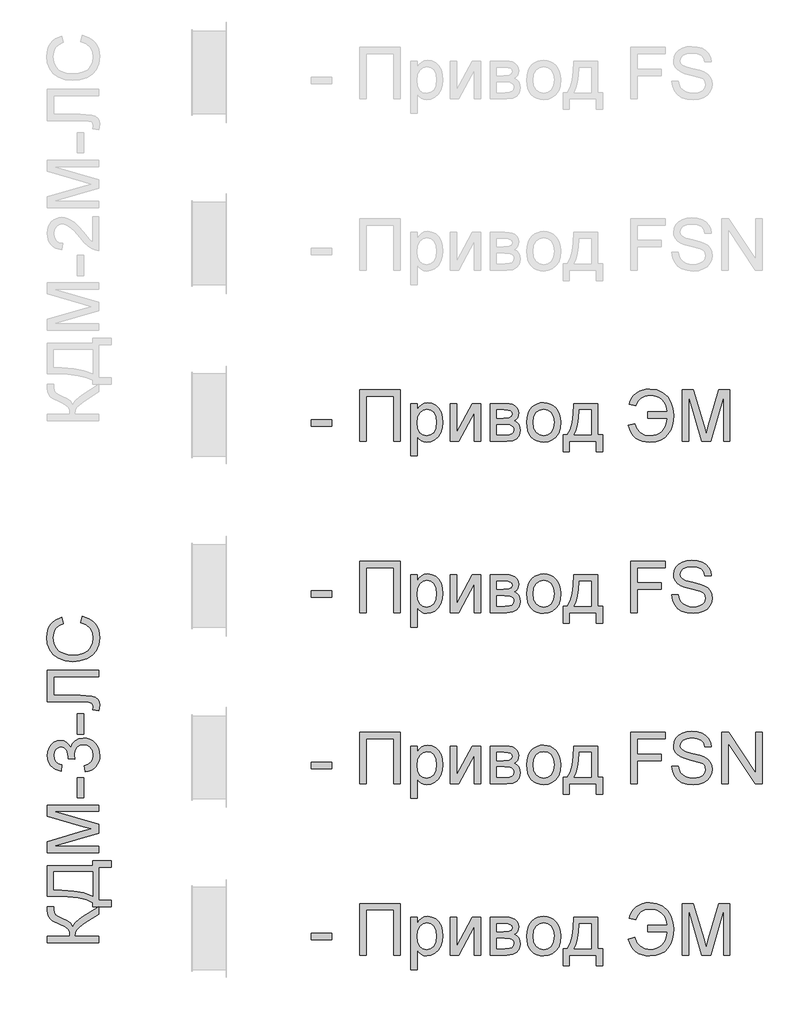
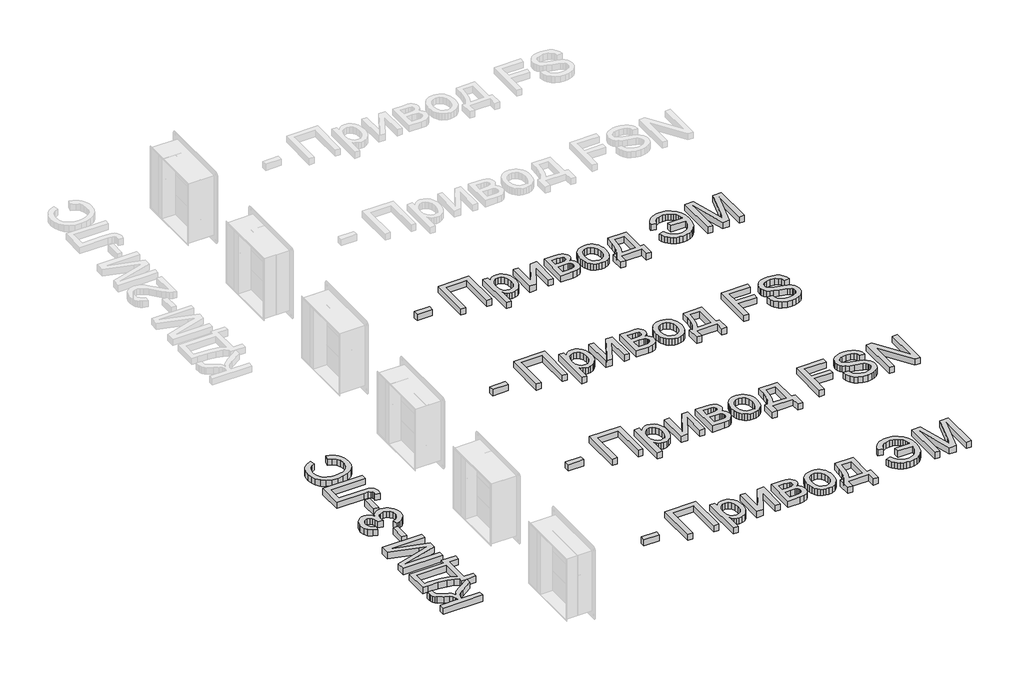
# One storey, part 5 of 23: 5 proxies.
"""IFC4 building model written with IfcOpenShell, lengths in millimetres."""

from ifc_helpers import new_model, si_unit, origin, origin_with_axes, place, context, project, spatial, polyline, outline, extrude, element, save

model = new_model("IFC4")

# Units and contexts
model_context = context("Model", 3, world=origin())
ifc_project = project(units=[si_unit("LENGTHUNIT", "METRE", prefix="MILLI")], contexts=[model_context])

# Site, building, storey
site = spatial("IfcSite", under=ifc_project)
building = spatial("IfcBuilding", under=site)
storey = spatial("IfcBuildingStorey", under=building, Name="Этаж 01", Elevation=0.0)

# Proxies
placement = place(None, origin())
element("IfcBuildingElementProxy", 1, Name="300 мм Arial", ObjectType="300 мм Arial", at=placement, inside=storey, context=model_context, shape_type="SweptSolid", body=[
    extrude(outline(polyline([(24504.7738082, -17034.3206311), (24504.7738082, -16996.6495148), (24622.4960467, -16996.6495148), (24622.4960467, -17034.3206311), (24504.7738082, -17034.3206311)])), origin_with_axes(), (0.0, 0.0, 1.0), 50.0),
    extrude(outline(polyline([(24787.3071805, -16822.4206019), (25022.7516574, -16822.4206019), (25022.7516574, -17123.7895324), (24985.0805411, -17123.7895324), (24985.0805411, -16860.0917182), (24824.9782968, -16860.0917182), (24824.9782968, -17123.7895324), (24787.3071805, -17123.7895324), (24787.3071805, -16822.4206019)])), origin_with_axes(), (0.0, 0.0, 1.0), 50.0),
    extrude(outline(polyline([(25083.9672214, -17208.5495441), (25083.9672214, -16902.4717241), (25121.6383378, -16902.4717241), (25121.6383378, -16939.4070764), (25133.9255964, -16921.1877206), (25147.684383, -16908.173895), (25163.724038, -16900.3655996), (25182.8539017, -16897.7628345), (25208.3297299, -16901.4048663), (25230.6049847, -16912.3309615), (25248.7415671, -16929.8789327), (25261.8013779, -16953.3865922), (25269.6924467, -16981.1432887), (25272.322803, -17011.438371), (25269.3521559, -17043.6556368), (25260.4402145, -17072.469994), (25245.8720875, -17096.4191119), (25225.9328834, -17114.0406595), (25202.7103324, -17124.8839813), (25178.292165, -17128.4984219), (25160.9741201, -17126.0795978), (25145.5138792, -17118.8231254), (25132.2793245, -17107.869439), (25121.6383378, -17094.3589728), (25121.6383378, -17208.5495441), (25083.9672214, -17208.5495441)]), holes=[polyline([(25121.6383378, -17014.8964618), (25125.7126308, -17048.668029), (25137.9355101, -17072.286053), (25155.970925, -17086.1919925), (25177.4828246, -17090.8273056), (25199.3442122, -17086.0264456), (25217.8394795, -17071.6238655), (25230.4486349, -17047.1413187), (25234.6516867, -17012.1005586), (25230.5498024, -16978.5129325), (25218.2441497, -16954.5638146), (25200.236326, -16940.2164168), (25179.027929, -16935.4339508), (25157.7367585, -16940.5199194), (25139.0391561, -16955.7778252), (25125.9885423, -16980.7294215), (25121.6383378, -17014.8964618)])]), origin_with_axes(), (0.0, 0.0, 1.0), 50.0),
    extrude(outline(polyline([(25314.7028088, -16902.4717241), (25352.3739251, -16902.4717241), (25352.3739251, -17071.2559835), (25444.9330351, -16902.4717241), (25493.6406113, -16902.4717241), (25493.6406113, -17123.7895324), (25455.969495, -17123.7895324), (25455.969495, -16956.0353426), (25363.9989962, -17123.7895324), (25314.7028088, -17123.7895324), (25314.7028088, -16902.4717241)])), origin_with_axes(), (0.0, 0.0, 1.0), 50.0),
    extrude(outline(polyline([(25550.1472857, -16902.4717241), (25633.1414638, -16902.4717241), (25659.8221055, -16903.7317199), (25678.6484666, -16907.5117074), (25692.4992238, -16914.6486181), (25704.2530535, -16925.9793836), (25712.2820781, -16940.7406486), (25714.9584196, -16958.1690581), (25713.3397388, -16972.2129533), (25708.4836965, -16984.325468), (25700.3718985, -16994.5617845), (25688.9859507, -17002.9770852), (25702.9286783, -17010.8037746), (25714.296232, -17023.3945359), (25721.856207, -17039.7560876), (25724.3761986, -17058.8951484), (25717.993446, -17087.6083381), (25702.8183137, -17107.8234538), (25678.7956194, -17119.7980127), (25645.8701809, -17123.7895324), (25550.1472857, -17123.7895324), (25550.1472857, -16902.4717241)]), holes=[polyline([(25587.818402, -17086.1184161), (25634.0243806, -17086.1184161), (25659.2059032, -17084.4169618), (25675.0064349, -17079.3125992), (25683.4861149, -17070.0327758), (25686.7050823, -17055.8049397), (25685.0955986, -17046.3779635), (25680.2671474, -17037.6683573), (25672.8543252, -17030.8533433), (25663.4917284, -17027.110144), (25630.3455607, -17024.9028521), (25587.818402, -17024.9028521), (25587.818402, -17086.1184161)]), polyline([(25587.818402, -16987.2317358), (25625.04806, -16987.2317358), (25655.7662065, -16985.3187494), (25670.7022156, -16977.6668039), (25675.6410313, -16971.3392336), (25677.2873033, -16963.8344409), (25674.3994296, -16952.5956459), (25665.7358086, -16945.3667647), (25650.0824297, -16941.4488215), (25626.2252823, -16940.1428404), (25587.818402, -16940.1428404), (25587.818402, -16987.2317358)])]), origin_with_axes(), (0.0, 0.0, 1.0), 50.0),
    extrude(outline(polyline([(25762.047315, -17013.1306282), (25764.0844615, -16984.4680223), (25770.1959011, -16959.7693448), (25780.3816339, -16939.0345959), (25794.6416597, -16922.2637754), (25808.9982546, -16911.5446138), (25824.8447715, -16903.8880698), (25842.1812106, -16899.2941433), (25861.0075717, -16897.7628345), (25881.7906051, -16899.6275364), (25900.5824773, -16905.221642), (25917.3831882, -16914.5451513), (25932.1927377, -16927.5980643), (25944.2799605, -16943.9389227), (25952.9136911, -16963.126268), (25958.0939294, -16985.1601003), (25959.8206756, -17010.0404195), (25956.767255, -17048.0978119), (25947.6069933, -17077.068519), (25932.606605, -17098.7643596), (25912.0328044, -17114.9971527), (25887.5962429, -17125.1231046), (25861.0075717, -17128.4984219), (25839.9210355, -17126.6406178), (25820.9544194, -17121.0672056), (25804.1077233, -17111.7781852), (25789.3809472, -17098.7735567), (25777.4224831, -17082.2740492), (25768.880723, -17062.500392), (25763.755667, -17039.452585), (25762.047315, -17013.1306282)]), holes=[polyline([(25799.7184313, -17013.0570518), (25804.0778329, -17047.1505157), (25817.1560378, -17071.4399245), (25836.8377246, -17085.9804603), (25861.0075717, -17090.8273056), (25885.0670541, -17085.9528692), (25904.7119527, -17071.3295599), (25917.7901576, -17046.7182544), (25922.1495593, -17011.8798294), (25917.7625665, -16978.7796469), (25904.6015881, -16954.821332), (25884.9290984, -16940.2807961), (25861.0075717, -16935.4339508), (25836.8377246, -16940.262402), (25817.1560378, -16954.7477556), (25804.0778329, -16978.981982), (25799.7184313, -17013.0570518)])]), origin_with_axes(), (0.0, 0.0, 1.0), 50.0),
    extrude(outline(polyline([(26035.1629082, -16902.4717241), (26176.4295943, -16902.4717241), (26176.4295943, -17086.1184161), (26204.6829316, -17086.1184161), (26204.6829316, -17185.0050964), (26167.0118152, -17185.0050964), (26167.0118152, -17123.7895324), (26011.6184605, -17123.7895324), (26011.6184605, -17185.0050964), (25973.9473442, -17185.0050964), (25973.9473442, -17086.1184161), (25997.4917919, -17086.1184161), (26014.6075017, -17055.1887373), (26026.5912577, -17014.2710624), (26033.4430598, -16963.3653913), (26035.1629082, -16902.4717241)]), holes=[polyline([(26068.1251349, -16940.1428404), (26065.0349262, -16986.2660455), (26059.2959671, -17025.9697099), (26050.9082576, -17059.2538334), (26039.8717977, -17086.1184161), (26138.758478, -17086.1184161), (26138.758478, -16940.1428404), (26068.1251349, -16940.1428404)])]), origin_with_axes(), (0.0, 0.0, 1.0), 50.0),
    extrude(outline(polyline([(26468.3807457, -16949.5606195), (26581.3940946, -16949.5606195), (26578.6947605, -16929.0121108), (26573.0983556, -16910.7030837), (26564.6048801, -16894.6335383), (26553.2143338, -16880.8034746), (26539.1520445, -16869.681942), (26522.64334, -16861.7379902), (26503.6882202, -16856.9716191), (26482.2866851, -16855.3828287), (26451.8674426, -16859.2088014), (26427.6378147, -16870.6867197), (26409.5978014, -16889.8165834), (26397.7474026, -16916.5983927), (26360.0762863, -16907.1806136), (26366.8637091, -16887.2873947), (26376.1895177, -16869.6934383), (26388.053712, -16854.3987444), (26402.4562922, -16841.4033129), (26419.0799598, -16831.0382377), (26437.6074168, -16823.6346125), (26458.0386631, -16819.1924374), (26480.3736987, -16817.7117124), (26521.4477235, -16823.1471689), (26556.3781189, -16839.4535383), (26584.1256184, -16864.2119966), (26603.6509553, -16895.0037196), (26615.211647, -16930.6054997), (26619.0652109, -16969.7941292), (26617.8925871, -17002.0136942), (26612.0938471, -17031.5707132), (26601.6689911, -17058.4651863), (26586.6180189, -17082.6971135), (26566.9777189, -17102.7351859), (26542.7848792, -17117.0480948), (26514.0394998, -17125.6358401), (26480.7415807, -17128.4984219), (26457.0545788, -17126.9533175), (26435.6576422, -17122.3180044), (26416.5507711, -17114.5924825), (26399.7339654, -17103.7767518), (26385.2072251, -17089.8708124), (26372.9705502, -17072.8746642), (26363.0239408, -17052.7883073), (26355.3673968, -17029.6117416), (26393.0385131, -17020.1939625), (26405.7672301, -17051.0960501), (26425.3385523, -17073.1689698), (26451.7524795, -17086.4127217), (26485.0090119, -17090.8273056), (26504.7182898, -17089.0936617), (26522.5697636, -17083.89273), (26538.5634333, -17075.2245105), (26552.699299, -17063.0890032), (26564.3979464, -17047.9460605), (26573.0799615, -17030.2555351), (26578.7453442, -17010.0174268), (26581.3940946, -16987.2317358), (26468.3807457, -16987.2317358), (26468.3807457, -16949.5606195)])), origin_with_axes(), (0.0, 0.0, 1.0), 50.0),
    extrude(outline(polyline([(26670.8629958, -17123.7895324), (26670.8629958, -16822.4206019), (26735.6838034, -16822.4206019), (26797.3408258, -17034.8356659), (26809.7752372, -17079.2022346), (26823.2397182, -17031.156846), (26883.866671, -16822.4206019), (26948.6874786, -16822.4206019), (26948.6874786, -17123.7895324), (26911.0163623, -17123.7895324), (26911.0163623, -16860.0917182), (26835.3062477, -17123.7895324), (26784.2442268, -17123.7895324), (26708.5341121, -16860.0917182), (26708.5341121, -17123.7895324), (26670.8629958, -17123.7895324)])), origin_with_axes(), (0.0, 0.0, 1.0), 50.0),
])
element("IfcBuildingElementProxy", 2, Name="300 мм Arial", ObjectType="300 мм Arial", at=placement, inside=storey, context=model_context, shape_type="SweptSolid", body=[
    extrude(outline(polyline([(24504.7738082, -18034.3206311), (24504.7738082, -17996.6495148), (24622.4960467, -17996.6495148), (24622.4960467, -18034.3206311), (24504.7738082, -18034.3206311)])), origin_with_axes(), (0.0, 0.0, 1.0), 50.0),
    extrude(outline(polyline([(24787.3071805, -17822.4206019), (25022.7516574, -17822.4206019), (25022.7516574, -18123.7895324), (24985.0805411, -18123.7895324), (24985.0805411, -17860.0917182), (24824.9782968, -17860.0917182), (24824.9782968, -18123.7895324), (24787.3071805, -18123.7895324), (24787.3071805, -17822.4206019)])), origin_with_axes(), (0.0, 0.0, 1.0), 50.0),
    extrude(outline(polyline([(25083.9672214, -18208.5495441), (25083.9672214, -17902.4717241), (25121.6383378, -17902.4717241), (25121.6383378, -17939.4070764), (25133.9255964, -17921.1877206), (25147.684383, -17908.173895), (25163.724038, -17900.3655996), (25182.8539017, -17897.7628345), (25208.3297299, -17901.4048663), (25230.6049847, -17912.3309615), (25248.7415671, -17929.8789327), (25261.8013779, -17953.3865922), (25269.6924467, -17981.1432887), (25272.322803, -18011.438371), (25269.3521559, -18043.6556368), (25260.4402145, -18072.469994), (25245.8720875, -18096.4191119), (25225.9328834, -18114.0406595), (25202.7103324, -18124.8839813), (25178.292165, -18128.4984219), (25160.9741201, -18126.0795978), (25145.5138792, -18118.8231254), (25132.2793245, -18107.869439), (25121.6383378, -18094.3589728), (25121.6383378, -18208.5495441), (25083.9672214, -18208.5495441)]), holes=[polyline([(25121.6383378, -18014.8964618), (25125.7126308, -18048.668029), (25137.9355101, -18072.286053), (25155.970925, -18086.1919925), (25177.4828246, -18090.8273056), (25199.3442122, -18086.0264456), (25217.8394795, -18071.6238655), (25230.4486349, -18047.1413187), (25234.6516867, -18012.1005586), (25230.5498024, -17978.5129325), (25218.2441497, -17954.5638146), (25200.236326, -17940.2164168), (25179.027929, -17935.4339508), (25157.7367585, -17940.5199194), (25139.0391561, -17955.7778252), (25125.9885423, -17980.7294215), (25121.6383378, -18014.8964618)])]), origin_with_axes(), (0.0, 0.0, 1.0), 50.0),
    extrude(outline(polyline([(25314.7028088, -17902.4717241), (25352.3739251, -17902.4717241), (25352.3739251, -18071.2559835), (25444.9330351, -17902.4717241), (25493.6406113, -17902.4717241), (25493.6406113, -18123.7895324), (25455.969495, -18123.7895324), (25455.969495, -17956.0353426), (25363.9989962, -18123.7895324), (25314.7028088, -18123.7895324), (25314.7028088, -17902.4717241)])), origin_with_axes(), (0.0, 0.0, 1.0), 50.0),
    extrude(outline(polyline([(25550.1472857, -17902.4717241), (25633.1414638, -17902.4717241), (25659.8221055, -17903.7317199), (25678.6484666, -17907.5117074), (25692.4992238, -17914.6486181), (25704.2530535, -17925.9793836), (25712.2820781, -17940.7406486), (25714.9584196, -17958.1690581), (25713.3397388, -17972.2129533), (25708.4836965, -17984.325468), (25700.3718985, -17994.5617845), (25688.9859507, -18002.9770852), (25702.9286783, -18010.8037746), (25714.296232, -18023.3945359), (25721.856207, -18039.7560876), (25724.3761986, -18058.8951484), (25717.993446, -18087.6083381), (25702.8183137, -18107.8234538), (25678.7956194, -18119.7980127), (25645.8701809, -18123.7895324), (25550.1472857, -18123.7895324), (25550.1472857, -17902.4717241)]), holes=[polyline([(25587.818402, -18086.1184161), (25634.0243806, -18086.1184161), (25659.2059032, -18084.4169618), (25675.0064349, -18079.3125992), (25683.4861149, -18070.0327758), (25686.7050823, -18055.8049397), (25685.0955986, -18046.3779635), (25680.2671474, -18037.6683573), (25672.8543252, -18030.8533433), (25663.4917284, -18027.110144), (25630.3455607, -18024.9028521), (25587.818402, -18024.9028521), (25587.818402, -18086.1184161)]), polyline([(25587.818402, -17987.2317358), (25625.04806, -17987.2317358), (25655.7662065, -17985.3187494), (25670.7022156, -17977.6668039), (25675.6410313, -17971.3392336), (25677.2873033, -17963.8344409), (25674.3994296, -17952.5956459), (25665.7358086, -17945.3667647), (25650.0824297, -17941.4488215), (25626.2252823, -17940.1428404), (25587.818402, -17940.1428404), (25587.818402, -17987.2317358)])]), origin_with_axes(), (0.0, 0.0, 1.0), 50.0),
    extrude(outline(polyline([(25762.047315, -18013.1306282), (25764.0844615, -17984.4680223), (25770.1959011, -17959.7693448), (25780.3816339, -17939.0345959), (25794.6416597, -17922.2637754), (25808.9982546, -17911.5446138), (25824.8447715, -17903.8880698), (25842.1812106, -17899.2941433), (25861.0075717, -17897.7628345), (25881.7906051, -17899.6275364), (25900.5824773, -17905.221642), (25917.3831882, -17914.5451513), (25932.1927377, -17927.5980643), (25944.2799605, -17943.9389227), (25952.9136911, -17963.126268), (25958.0939294, -17985.1601003), (25959.8206756, -18010.0404195), (25956.767255, -18048.0978119), (25947.6069933, -18077.068519), (25932.606605, -18098.7643596), (25912.0328044, -18114.9971527), (25887.5962429, -18125.1231046), (25861.0075717, -18128.4984219), (25839.9210355, -18126.6406178), (25820.9544194, -18121.0672056), (25804.1077233, -18111.7781852), (25789.3809472, -18098.7735567), (25777.4224831, -18082.2740492), (25768.880723, -18062.500392), (25763.755667, -18039.452585), (25762.047315, -18013.1306282)]), holes=[polyline([(25799.7184313, -18013.0570518), (25804.0778329, -18047.1505157), (25817.1560378, -18071.4399245), (25836.8377246, -18085.9804603), (25861.0075717, -18090.8273056), (25885.0670541, -18085.9528692), (25904.7119527, -18071.3295599), (25917.7901576, -18046.7182544), (25922.1495593, -18011.8798294), (25917.7625665, -17978.7796469), (25904.6015881, -17954.821332), (25884.9290984, -17940.2807961), (25861.0075717, -17935.4339508), (25836.8377246, -17940.262402), (25817.1560378, -17954.7477556), (25804.0778329, -17978.981982), (25799.7184313, -18013.0570518)])]), origin_with_axes(), (0.0, 0.0, 1.0), 50.0),
    extrude(outline(polyline([(26035.1629082, -17902.4717241), (26176.4295943, -17902.4717241), (26176.4295943, -18086.1184161), (26204.6829316, -18086.1184161), (26204.6829316, -18185.0050964), (26167.0118152, -18185.0050964), (26167.0118152, -18123.7895324), (26011.6184605, -18123.7895324), (26011.6184605, -18185.0050964), (25973.9473442, -18185.0050964), (25973.9473442, -18086.1184161), (25997.4917919, -18086.1184161), (26014.6075017, -18055.1887373), (26026.5912577, -18014.2710624), (26033.4430598, -17963.3653913), (26035.1629082, -17902.4717241)]), holes=[polyline([(26068.1251349, -17940.1428404), (26065.0349262, -17986.2660455), (26059.2959671, -18025.9697099), (26050.9082576, -18059.2538334), (26039.8717977, -18086.1184161), (26138.758478, -18086.1184161), (26138.758478, -17940.1428404), (26068.1251349, -17940.1428404)])]), origin_with_axes(), (0.0, 0.0, 1.0), 50.0),
    extrude(outline(polyline([(26369.4940654, -18123.7895324), (26369.4940654, -17822.4206019), (26571.9763155, -17822.4206019), (26571.9763155, -17860.0917182), (26407.1651817, -17860.0917182), (26407.1651817, -17949.5606195), (26548.4318678, -17949.5606195), (26548.4318678, -17987.2317358), (26407.1651817, -17987.2317358), (26407.1651817, -18123.7895324), (26369.4940654, -18123.7895324)])), origin_with_axes(), (0.0, 0.0, 1.0), 50.0),
    extrude(outline(polyline([(26609.6474318, -18020.1939625), (26647.3185481, -18020.1939625), (26651.6411616, -18041.0988569), (26659.458654, -18057.901867), (26671.6539421, -18071.2375894), (26689.1099428, -18081.7406203), (26710.4470985, -18088.5556343), (26734.2858518, -18090.8273056), (26755.2735196, -18089.1074573), (26773.6492253, -18083.9479123), (26788.539249, -18075.780932), (26799.0698712, -18065.0387777), (26805.3330621, -18052.7055339), (26807.4207924, -18039.7652847), (26805.857294, -18027.1561293), (26801.1667985, -18016.2576252), (26791.6386549, -18006.9594078), (26775.5622117, -17999.1511124), (26720.7110062, -17984.7669264), (26684.7045559, -17975.2479798), (26661.665946, -17966.1888856), (26642.9131613, -17953.5153509), (26629.6234242, -17938.1562776), (26621.7047642, -17920.4427595), (26619.0652109, -17900.7058905), (26622.3301636, -17878.6421678), (26632.1250217, -17858.0683673), (26648.1922679, -17840.6307607), (26670.2743846, -17827.97562), (26696.7802824, -17820.2776893), (26726.1188715, -17817.7117124), (26757.9038759, -17820.3972509), (26785.7157547, -17828.4538666), (26808.5612266, -17841.7160126), (26825.4470102, -17860.0181418), (26836.1339822, -17882.2198202), (26840.3830192, -17907.1806136), (26802.7119029, -17907.1806136), (26795.7957214, -17884.7030237), (26781.3747472, -17868.4794277), (26758.841975, -17858.6569784), (26727.5903995, -17855.3828287), (26695.60306, -17858.6201902), (26673.658899, -17868.3322749), (26660.9669702, -17882.6244904), (26656.7363272, -17899.6022445), (26659.7345655, -17914.078401), (26668.7292803, -17925.7218662), (26689.9928596, -17936.1329266), (26730.2391499, -17946.7647163), (26771.7730271, -17956.8630771), (26796.8993674, -17965.6738508), (26818.3744789, -17979.340667), (26833.3564731, -17996.2080564), (26842.1580498, -18016.0920783), (26845.0919088, -18038.8087915), (26841.7165914, -18062.0313424), (26831.5906395, -18083.8743359), (26815.1279202, -18102.6731058), (26792.7423008, -18116.7629863), (26765.8225358, -18125.564563), (26735.7573798, -18128.4984219), (26698.8496186, -18125.3346367), (26668.4717629, -18115.8432813), (26644.2743246, -18099.9875673), (26625.907816, -18077.7307066), (26614.1171981, -18050.6178035), (26609.6474318, -18020.1939625)])), origin_with_axes(), (0.0, 0.0, 1.0), 50.0),
])
element("IfcBuildingElementProxy", 3, Name="300 мм Arial", ObjectType="300 мм Arial", at=placement, inside=storey, context=model_context, shape_type="SweptSolid", body=[
    extrude(outline(polyline([(24504.7738082, -19034.3206311), (24504.7738082, -18996.6495148), (24622.4960467, -18996.6495148), (24622.4960467, -19034.3206311), (24504.7738082, -19034.3206311)])), origin_with_axes(), (0.0, 0.0, 1.0), 50.0),
    extrude(outline(polyline([(24787.3071805, -18822.4206019), (25022.7516574, -18822.4206019), (25022.7516574, -19123.7895324), (24985.0805411, -19123.7895324), (24985.0805411, -18860.0917182), (24824.9782968, -18860.0917182), (24824.9782968, -19123.7895324), (24787.3071805, -19123.7895324), (24787.3071805, -18822.4206019)])), origin_with_axes(), (0.0, 0.0, 1.0), 50.0),
    extrude(outline(polyline([(25083.9672214, -19208.5495441), (25083.9672214, -18902.4717241), (25121.6383378, -18902.4717241), (25121.6383378, -18939.4070764), (25133.9255964, -18921.1877206), (25147.684383, -18908.173895), (25163.724038, -18900.3655996), (25182.8539017, -18897.7628345), (25208.3297299, -18901.4048663), (25230.6049847, -18912.3309615), (25248.7415671, -18929.8789327), (25261.8013779, -18953.3865922), (25269.6924467, -18981.1432887), (25272.322803, -19011.438371), (25269.3521559, -19043.6556368), (25260.4402145, -19072.469994), (25245.8720875, -19096.4191119), (25225.9328834, -19114.0406595), (25202.7103324, -19124.8839813), (25178.292165, -19128.4984219), (25160.9741201, -19126.0795978), (25145.5138792, -19118.8231254), (25132.2793245, -19107.869439), (25121.6383378, -19094.3589728), (25121.6383378, -19208.5495441), (25083.9672214, -19208.5495441)]), holes=[polyline([(25121.6383378, -19014.8964618), (25125.7126308, -19048.668029), (25137.9355101, -19072.286053), (25155.970925, -19086.1919925), (25177.4828246, -19090.8273056), (25199.3442122, -19086.0264456), (25217.8394795, -19071.6238655), (25230.4486349, -19047.1413187), (25234.6516867, -19012.1005586), (25230.5498024, -18978.5129325), (25218.2441497, -18954.5638146), (25200.236326, -18940.2164168), (25179.027929, -18935.4339508), (25157.7367585, -18940.5199194), (25139.0391561, -18955.7778252), (25125.9885423, -18980.7294215), (25121.6383378, -19014.8964618)])]), origin_with_axes(), (0.0, 0.0, 1.0), 50.0),
    extrude(outline(polyline([(25314.7028088, -18902.4717241), (25352.3739251, -18902.4717241), (25352.3739251, -19071.2559835), (25444.9330351, -18902.4717241), (25493.6406113, -18902.4717241), (25493.6406113, -19123.7895324), (25455.969495, -19123.7895324), (25455.969495, -18956.0353426), (25363.9989962, -19123.7895324), (25314.7028088, -19123.7895324), (25314.7028088, -18902.4717241)])), origin_with_axes(), (0.0, 0.0, 1.0), 50.0),
    extrude(outline(polyline([(25550.1472857, -18902.4717241), (25633.1414638, -18902.4717241), (25659.8221055, -18903.7317199), (25678.6484666, -18907.5117074), (25692.4992238, -18914.6486181), (25704.2530535, -18925.9793836), (25712.2820781, -18940.7406486), (25714.9584196, -18958.1690581), (25713.3397388, -18972.2129533), (25708.4836965, -18984.325468), (25700.3718985, -18994.5617845), (25688.9859507, -19002.9770852), (25702.9286783, -19010.8037746), (25714.296232, -19023.3945359), (25721.856207, -19039.7560876), (25724.3761986, -19058.8951484), (25717.993446, -19087.6083381), (25702.8183137, -19107.8234538), (25678.7956194, -19119.7980127), (25645.8701809, -19123.7895324), (25550.1472857, -19123.7895324), (25550.1472857, -18902.4717241)]), holes=[polyline([(25587.818402, -19086.1184161), (25634.0243806, -19086.1184161), (25659.2059032, -19084.4169618), (25675.0064349, -19079.3125992), (25683.4861149, -19070.0327758), (25686.7050823, -19055.8049397), (25685.0955986, -19046.3779635), (25680.2671474, -19037.6683573), (25672.8543252, -19030.8533433), (25663.4917284, -19027.110144), (25630.3455607, -19024.9028521), (25587.818402, -19024.9028521), (25587.818402, -19086.1184161)]), polyline([(25587.818402, -18987.2317358), (25625.04806, -18987.2317358), (25655.7662065, -18985.3187494), (25670.7022156, -18977.6668039), (25675.6410313, -18971.3392336), (25677.2873033, -18963.8344409), (25674.3994296, -18952.5956459), (25665.7358086, -18945.3667647), (25650.0824297, -18941.4488215), (25626.2252823, -18940.1428404), (25587.818402, -18940.1428404), (25587.818402, -18987.2317358)])]), origin_with_axes(), (0.0, 0.0, 1.0), 50.0),
    extrude(outline(polyline([(25762.047315, -19013.1306282), (25764.0844615, -18984.4680223), (25770.1959011, -18959.7693448), (25780.3816339, -18939.0345959), (25794.6416597, -18922.2637754), (25808.9982546, -18911.5446138), (25824.8447715, -18903.8880698), (25842.1812106, -18899.2941433), (25861.0075717, -18897.7628345), (25881.7906051, -18899.6275364), (25900.5824773, -18905.221642), (25917.3831882, -18914.5451513), (25932.1927377, -18927.5980643), (25944.2799605, -18943.9389227), (25952.9136911, -18963.126268), (25958.0939294, -18985.1601003), (25959.8206756, -19010.0404195), (25956.767255, -19048.0978119), (25947.6069933, -19077.068519), (25932.606605, -19098.7643596), (25912.0328044, -19114.9971527), (25887.5962429, -19125.1231046), (25861.0075717, -19128.4984219), (25839.9210355, -19126.6406178), (25820.9544194, -19121.0672056), (25804.1077233, -19111.7781852), (25789.3809472, -19098.7735567), (25777.4224831, -19082.2740492), (25768.880723, -19062.500392), (25763.755667, -19039.452585), (25762.047315, -19013.1306282)]), holes=[polyline([(25799.7184313, -19013.0570518), (25804.0778329, -19047.1505157), (25817.1560378, -19071.4399245), (25836.8377246, -19085.9804603), (25861.0075717, -19090.8273056), (25885.0670541, -19085.9528692), (25904.7119527, -19071.3295599), (25917.7901576, -19046.7182544), (25922.1495593, -19011.8798294), (25917.7625665, -18978.7796469), (25904.6015881, -18954.821332), (25884.9290984, -18940.2807961), (25861.0075717, -18935.4339508), (25836.8377246, -18940.262402), (25817.1560378, -18954.7477556), (25804.0778329, -18978.981982), (25799.7184313, -19013.0570518)])]), origin_with_axes(), (0.0, 0.0, 1.0), 50.0),
    extrude(outline(polyline([(26035.1629082, -18902.4717241), (26176.4295943, -18902.4717241), (26176.4295943, -19086.1184161), (26204.6829316, -19086.1184161), (26204.6829316, -19185.0050964), (26167.0118152, -19185.0050964), (26167.0118152, -19123.7895324), (26011.6184605, -19123.7895324), (26011.6184605, -19185.0050964), (25973.9473442, -19185.0050964), (25973.9473442, -19086.1184161), (25997.4917919, -19086.1184161), (26014.6075017, -19055.1887373), (26026.5912577, -19014.2710624), (26033.4430598, -18963.3653913), (26035.1629082, -18902.4717241)]), holes=[polyline([(26068.1251349, -18940.1428404), (26065.0349262, -18986.2660455), (26059.2959671, -19025.9697099), (26050.9082576, -19059.2538334), (26039.8717977, -19086.1184161), (26138.758478, -19086.1184161), (26138.758478, -18940.1428404), (26068.1251349, -18940.1428404)])]), origin_with_axes(), (0.0, 0.0, 1.0), 50.0),
    extrude(outline(polyline([(26369.4940654, -19123.7895324), (26369.4940654, -18822.4206019), (26571.9763155, -18822.4206019), (26571.9763155, -18860.0917182), (26407.1651817, -18860.0917182), (26407.1651817, -18949.5606195), (26548.4318678, -18949.5606195), (26548.4318678, -18987.2317358), (26407.1651817, -18987.2317358), (26407.1651817, -19123.7895324), (26369.4940654, -19123.7895324)])), origin_with_axes(), (0.0, 0.0, 1.0), 50.0),
    extrude(outline(polyline([(26609.6474318, -19020.1939625), (26647.3185481, -19020.1939625), (26651.6411616, -19041.0988569), (26659.458654, -19057.901867), (26671.6539421, -19071.2375894), (26689.1099428, -19081.7406203), (26710.4470985, -19088.5556343), (26734.2858518, -19090.8273056), (26755.2735196, -19089.1074573), (26773.6492253, -19083.9479123), (26788.539249, -19075.780932), (26799.0698712, -19065.0387777), (26805.3330621, -19052.7055339), (26807.4207924, -19039.7652847), (26805.857294, -19027.1561293), (26801.1667985, -19016.2576252), (26791.6386549, -19006.9594078), (26775.5622117, -18999.1511124), (26720.7110062, -18984.7669264), (26684.7045559, -18975.2479798), (26661.665946, -18966.1888856), (26642.9131613, -18953.5153509), (26629.6234242, -18938.1562776), (26621.7047642, -18920.4427595), (26619.0652109, -18900.7058905), (26622.3301636, -18878.6421678), (26632.1250217, -18858.0683673), (26648.1922679, -18840.6307607), (26670.2743846, -18827.97562), (26696.7802824, -18820.2776893), (26726.1188715, -18817.7117124), (26757.9038759, -18820.3972509), (26785.7157547, -18828.4538666), (26808.5612266, -18841.7160126), (26825.4470102, -18860.0181418), (26836.1339822, -18882.2198202), (26840.3830192, -18907.1806136), (26802.7119029, -18907.1806136), (26795.7957214, -18884.7030237), (26781.3747472, -18868.4794277), (26758.841975, -18858.6569784), (26727.5903995, -18855.3828287), (26695.60306, -18858.6201902), (26673.658899, -18868.3322749), (26660.9669702, -18882.6244904), (26656.7363272, -18899.6022445), (26659.7345655, -18914.078401), (26668.7292803, -18925.7218662), (26689.9928596, -18936.1329266), (26730.2391499, -18946.7647163), (26771.7730271, -18956.8630771), (26796.8993674, -18965.6738508), (26818.3744789, -18979.340667), (26833.3564731, -18996.2080564), (26842.1580498, -19016.0920783), (26845.0919088, -19038.8087915), (26841.7165914, -19062.0313424), (26831.5906395, -19083.8743359), (26815.1279202, -19102.6731058), (26792.7423008, -19116.7629863), (26765.8225358, -19125.564563), (26735.7573798, -19128.4984219), (26698.8496186, -19125.3346367), (26668.4717629, -19115.8432813), (26644.2743246, -19099.9875673), (26625.907816, -19077.7307066), (26614.1171981, -19050.6178035), (26609.6474318, -19020.1939625)])), origin_with_axes(), (0.0, 0.0, 1.0), 50.0),
    extrude(outline(polyline([(26901.5985832, -19123.7895324), (26901.5985832, -18822.4206019), (26941.9184499, -18822.4206019), (27099.3719438, -19061.1760168), (27099.3719438, -18822.4206019), (27137.0430601, -18822.4206019), (27137.0430601, -19123.7895324), (27096.7231935, -19123.7895324), (26939.2696995, -18884.9605411), (26939.2696995, -19123.7895324), (26901.5985832, -19123.7895324)])), origin_with_axes(), (0.0, 0.0, 1.0), 50.0),
])
element("IfcBuildingElementProxy", 4, Name="300 мм Arial", ObjectType="300 мм Arial", at=placement, inside=storey, context=model_context, shape_type="SweptSolid", body=[
    extrude(outline(polyline([(24504.7738082, -20034.3206311), (24504.7738082, -19996.6495148), (24622.4960467, -19996.6495148), (24622.4960467, -20034.3206311), (24504.7738082, -20034.3206311)])), origin_with_axes(), (0.0, 0.0, 1.0), 50.0),
    extrude(outline(polyline([(24787.3071805, -19822.4206019), (25022.7516574, -19822.4206019), (25022.7516574, -20123.7895324), (24985.0805411, -20123.7895324), (24985.0805411, -19860.0917182), (24824.9782968, -19860.0917182), (24824.9782968, -20123.7895324), (24787.3071805, -20123.7895324), (24787.3071805, -19822.4206019)])), origin_with_axes(), (0.0, 0.0, 1.0), 50.0),
    extrude(outline(polyline([(25083.9672214, -20208.5495441), (25083.9672214, -19902.4717241), (25121.6383378, -19902.4717241), (25121.6383378, -19939.4070764), (25133.9255964, -19921.1877206), (25147.684383, -19908.173895), (25163.724038, -19900.3655996), (25182.8539017, -19897.7628345), (25208.3297299, -19901.4048663), (25230.6049847, -19912.3309615), (25248.7415671, -19929.8789327), (25261.8013779, -19953.3865922), (25269.6924467, -19981.1432887), (25272.322803, -20011.438371), (25269.3521559, -20043.6556368), (25260.4402145, -20072.469994), (25245.8720875, -20096.4191119), (25225.9328834, -20114.0406595), (25202.7103324, -20124.8839813), (25178.292165, -20128.4984219), (25160.9741201, -20126.0795978), (25145.5138792, -20118.8231254), (25132.2793245, -20107.869439), (25121.6383378, -20094.3589728), (25121.6383378, -20208.5495441), (25083.9672214, -20208.5495441)]), holes=[polyline([(25121.6383378, -20014.8964618), (25125.7126308, -20048.668029), (25137.9355101, -20072.286053), (25155.970925, -20086.1919925), (25177.4828246, -20090.8273056), (25199.3442122, -20086.0264456), (25217.8394795, -20071.6238655), (25230.4486349, -20047.1413187), (25234.6516867, -20012.1005586), (25230.5498024, -19978.5129325), (25218.2441497, -19954.5638146), (25200.236326, -19940.2164168), (25179.027929, -19935.4339508), (25157.7367585, -19940.5199194), (25139.0391561, -19955.7778252), (25125.9885423, -19980.7294215), (25121.6383378, -20014.8964618)])]), origin_with_axes(), (0.0, 0.0, 1.0), 50.0),
    extrude(outline(polyline([(25314.7028088, -19902.4717241), (25352.3739251, -19902.4717241), (25352.3739251, -20071.2559835), (25444.9330351, -19902.4717241), (25493.6406113, -19902.4717241), (25493.6406113, -20123.7895324), (25455.969495, -20123.7895324), (25455.969495, -19956.0353426), (25363.9989962, -20123.7895324), (25314.7028088, -20123.7895324), (25314.7028088, -19902.4717241)])), origin_with_axes(), (0.0, 0.0, 1.0), 50.0),
    extrude(outline(polyline([(25550.1472857, -19902.4717241), (25633.1414638, -19902.4717241), (25659.8221055, -19903.7317199), (25678.6484666, -19907.5117074), (25692.4992238, -19914.6486181), (25704.2530535, -19925.9793836), (25712.2820781, -19940.7406486), (25714.9584196, -19958.1690581), (25713.3397388, -19972.2129533), (25708.4836965, -19984.325468), (25700.3718985, -19994.5617845), (25688.9859507, -20002.9770852), (25702.9286783, -20010.8037746), (25714.296232, -20023.3945359), (25721.856207, -20039.7560876), (25724.3761986, -20058.8951484), (25717.993446, -20087.6083381), (25702.8183137, -20107.8234538), (25678.7956194, -20119.7980127), (25645.8701809, -20123.7895324), (25550.1472857, -20123.7895324), (25550.1472857, -19902.4717241)]), holes=[polyline([(25587.818402, -20086.1184161), (25634.0243806, -20086.1184161), (25659.2059032, -20084.4169618), (25675.0064349, -20079.3125992), (25683.4861149, -20070.0327758), (25686.7050823, -20055.8049397), (25685.0955986, -20046.3779635), (25680.2671474, -20037.6683573), (25672.8543252, -20030.8533433), (25663.4917284, -20027.110144), (25630.3455607, -20024.9028521), (25587.818402, -20024.9028521), (25587.818402, -20086.1184161)]), polyline([(25587.818402, -19987.2317358), (25625.04806, -19987.2317358), (25655.7662065, -19985.3187494), (25670.7022156, -19977.6668039), (25675.6410313, -19971.3392336), (25677.2873033, -19963.8344409), (25674.3994296, -19952.5956459), (25665.7358086, -19945.3667647), (25650.0824297, -19941.4488215), (25626.2252823, -19940.1428404), (25587.818402, -19940.1428404), (25587.818402, -19987.2317358)])]), origin_with_axes(), (0.0, 0.0, 1.0), 50.0),
    extrude(outline(polyline([(25762.047315, -20013.1306282), (25764.0844615, -19984.4680223), (25770.1959011, -19959.7693448), (25780.3816339, -19939.0345959), (25794.6416597, -19922.2637754), (25808.9982546, -19911.5446138), (25824.8447715, -19903.8880698), (25842.1812106, -19899.2941433), (25861.0075717, -19897.7628345), (25881.7906051, -19899.6275364), (25900.5824773, -19905.221642), (25917.3831882, -19914.5451513), (25932.1927377, -19927.5980643), (25944.2799605, -19943.9389227), (25952.9136911, -19963.126268), (25958.0939294, -19985.1601003), (25959.8206756, -20010.0404195), (25956.767255, -20048.0978119), (25947.6069933, -20077.068519), (25932.606605, -20098.7643596), (25912.0328044, -20114.9971527), (25887.5962429, -20125.1231046), (25861.0075717, -20128.4984219), (25839.9210355, -20126.6406178), (25820.9544194, -20121.0672056), (25804.1077233, -20111.7781852), (25789.3809472, -20098.7735567), (25777.4224831, -20082.2740492), (25768.880723, -20062.500392), (25763.755667, -20039.452585), (25762.047315, -20013.1306282)]), holes=[polyline([(25799.7184313, -20013.0570518), (25804.0778329, -20047.1505157), (25817.1560378, -20071.4399245), (25836.8377246, -20085.9804603), (25861.0075717, -20090.8273056), (25885.0670541, -20085.9528692), (25904.7119527, -20071.3295599), (25917.7901576, -20046.7182544), (25922.1495593, -20011.8798294), (25917.7625665, -19978.7796469), (25904.6015881, -19954.821332), (25884.9290984, -19940.2807961), (25861.0075717, -19935.4339508), (25836.8377246, -19940.262402), (25817.1560378, -19954.7477556), (25804.0778329, -19978.981982), (25799.7184313, -20013.0570518)])]), origin_with_axes(), (0.0, 0.0, 1.0), 50.0),
    extrude(outline(polyline([(26035.1629082, -19902.4717241), (26176.4295943, -19902.4717241), (26176.4295943, -20086.1184161), (26204.6829316, -20086.1184161), (26204.6829316, -20185.0050964), (26167.0118152, -20185.0050964), (26167.0118152, -20123.7895324), (26011.6184605, -20123.7895324), (26011.6184605, -20185.0050964), (25973.9473442, -20185.0050964), (25973.9473442, -20086.1184161), (25997.4917919, -20086.1184161), (26014.6075017, -20055.1887373), (26026.5912577, -20014.2710624), (26033.4430598, -19963.3653913), (26035.1629082, -19902.4717241)]), holes=[polyline([(26068.1251349, -19940.1428404), (26065.0349262, -19986.2660455), (26059.2959671, -20025.9697099), (26050.9082576, -20059.2538334), (26039.8717977, -20086.1184161), (26138.758478, -20086.1184161), (26138.758478, -19940.1428404), (26068.1251349, -19940.1428404)])]), origin_with_axes(), (0.0, 0.0, 1.0), 50.0),
    extrude(outline(polyline([(26468.3807457, -19949.5606195), (26581.3940946, -19949.5606195), (26578.6947605, -19929.0121108), (26573.0983556, -19910.7030837), (26564.6048801, -19894.6335383), (26553.2143338, -19880.8034746), (26539.1520445, -19869.681942), (26522.64334, -19861.7379902), (26503.6882202, -19856.9716191), (26482.2866851, -19855.3828287), (26451.8674426, -19859.2088014), (26427.6378147, -19870.6867197), (26409.5978014, -19889.8165834), (26397.7474026, -19916.5983927), (26360.0762863, -19907.1806136), (26366.8637091, -19887.2873947), (26376.1895177, -19869.6934383), (26388.053712, -19854.3987444), (26402.4562922, -19841.4033129), (26419.0799598, -19831.0382377), (26437.6074168, -19823.6346125), (26458.0386631, -19819.1924374), (26480.3736987, -19817.7117124), (26521.4477235, -19823.1471689), (26556.3781189, -19839.4535383), (26584.1256184, -19864.2119966), (26603.6509553, -19895.0037196), (26615.211647, -19930.6054997), (26619.0652109, -19969.7941292), (26617.8925871, -20002.0136942), (26612.0938471, -20031.5707132), (26601.6689911, -20058.4651863), (26586.6180189, -20082.6971135), (26566.9777189, -20102.7351859), (26542.7848792, -20117.0480948), (26514.0394998, -20125.6358401), (26480.7415807, -20128.4984219), (26457.0545788, -20126.9533175), (26435.6576422, -20122.3180044), (26416.5507711, -20114.5924825), (26399.7339654, -20103.7767518), (26385.2072251, -20089.8708124), (26372.9705502, -20072.8746642), (26363.0239408, -20052.7883073), (26355.3673968, -20029.6117416), (26393.0385131, -20020.1939625), (26405.7672301, -20051.0960501), (26425.3385523, -20073.1689698), (26451.7524795, -20086.4127217), (26485.0090119, -20090.8273056), (26504.7182898, -20089.0936617), (26522.5697636, -20083.89273), (26538.5634333, -20075.2245105), (26552.699299, -20063.0890032), (26564.3979464, -20047.9460605), (26573.0799615, -20030.2555351), (26578.7453442, -20010.0174268), (26581.3940946, -19987.2317358), (26468.3807457, -19987.2317358), (26468.3807457, -19949.5606195)])), origin_with_axes(), (0.0, 0.0, 1.0), 50.0),
    extrude(outline(polyline([(26670.8629958, -20123.7895324), (26670.8629958, -19822.4206019), (26735.6838034, -19822.4206019), (26797.3408258, -20034.8356659), (26809.7752372, -20079.2022346), (26823.2397182, -20031.156846), (26883.866671, -19822.4206019), (26948.6874786, -19822.4206019), (26948.6874786, -20123.7895324), (26911.0163623, -20123.7895324), (26911.0163623, -19860.0917182), (26835.3062477, -20123.7895324), (26784.2442268, -20123.7895324), (26708.5341121, -19860.0917182), (26708.5341121, -20123.7895324), (26670.8629958, -20123.7895324)])), origin_with_axes(), (0.0, 0.0, 1.0), 50.0),
])
element("IfcBuildingElementProxy", 5, Name="300 мм Arial", ObjectType="300 мм Arial", at=placement, inside=storey, context=model_context, shape_type="SweptSolid", body=[
    extrude(outline(polyline([(22962.355345, -20052.3550656), (22962.355345, -20014.6839493), (23094.2042521, -20014.6839493), (23091.7118516, -19989.1805299), (23084.23465, -19972.5614608), (23066.6406936, -19959.1245709), (23033.7980285, -19943.1676894), (22991.6755401, -19922.3823567), (22980.2620012, -19912.3575723), (22970.8166309, -19898.837909), (22964.4706665, -19882.7890569), (22962.355345, -19865.1767064), (22962.7968034, -19840.4550363), (23000.4679197, -19840.4550363), (23000.2471905, -19848.7691694), (23000.0264613, -19857.0833025), (23002.2889356, -19874.3369681), (23009.0763584, -19886.5138621), (23023.3317857, -19896.998499), (23047.8511207, -19908.8810874), (23078.3853263, -19923.4584115), (23095.0871689, -19935.5525321), (23110.6853655, -19961.5617892), (23116.8933742, -19946.9706695), (23127.7183019, -19932.4807174), (23163.2189144, -19903.8043159), (23263.7242755, -19840.4550363), (23263.7242755, -19884.1594174), (23178.817111, -19937.7230359), (23151.5846463, -19958.407201), (23134.4873306, -19975.4309404), (23125.4650246, -19992.8409558), (23122.4575893, -20014.6839493), (23263.7242755, -20014.6839493), (23263.7242755, -20052.3550656), (22962.355345, -20052.3550656)])), origin_with_axes(), (0.0, 0.0, 1.0), 50.0),
    extrude(outline(polyline([(22962.355345, -19779.2394723), (22962.355345, -19600.3016699), (23226.0531592, -19600.3016699), (23226.0531592, -19572.0483327), (23334.3576186, -19572.0483327), (23334.3576186, -19609.719449), (23263.7242755, -19609.719449), (23263.7242755, -19802.78392), (23334.3576186, -19802.78392), (23334.3576186, -19840.4550363), (23263.7242755, -19840.4550363), (23226.0531592, -19840.4550363), (23226.0531592, -19816.9105887), (23191.8815204, -19800.4294753), (23143.8131392, -19788.6572514), (23081.8480156, -19781.5939171), (23005.9861497, -19779.2394723), (22962.355345, -19779.2394723)]), holes=[polyline([(23000.0264613, -19637.9727862), (23000.0264613, -19741.568356), (23015.1831995, -19741.568356), (23118.4108874, -19749.2203015), (23178.0629529, -19760.551067), (23226.0531592, -19779.2394723), (23226.0531592, -19637.9727862), (23000.0264613, -19637.9727862)])]), origin_with_axes(), (0.0, 0.0, 1.0), 50.0),
    extrude(outline(polyline([(23263.7242755, -19524.9594373), (22962.355345, -19524.9594373), (22962.355345, -19460.1386297), (23174.7704091, -19398.4816073), (23219.1369777, -19386.0471959), (23171.0915891, -19372.5827149), (22962.355345, -19311.9557621), (22962.355345, -19247.1349545), (23263.7242755, -19247.1349545), (23263.7242755, -19284.8060708), (23000.0264613, -19284.8060708), (23263.7242755, -19360.5161854), (23263.7242755, -19411.5782064), (23000.0264613, -19487.288321), (23263.7242755, -19487.288321), (23263.7242755, -19524.9594373)])), origin_with_axes(), (0.0, 0.0, 1.0), 50.0),
    extrude(outline(polyline([(23174.2553743, -19204.7549487), (23136.584258, -19204.7549487), (23136.584258, -19087.0327102), (23174.2553743, -19087.0327102), (23174.2553743, -19204.7549487)])), origin_with_axes(), (0.0, 0.0, 1.0), 50.0),
    extrude(outline(polyline([(23183.6731533, -19054.0704835), (23178.9642638, -19016.3993671), (23202.6374702, -19007.9656724), (23218.6219429, -18995.6140344), (23227.7270223, -18978.7374479), (23230.7620487, -18956.7289075), (23226.5865881, -18930.9035915), (23214.0602061, -18910.9643873), (23195.3718008, -18898.2172762), (23172.7102699, -18893.9682392), (23151.1983702, -18898.180488), (23133.7515666, -18910.8172345), (23122.1908749, -18929.9470983), (23118.337311, -18953.6386988), (23122.4575893, -18980.052626), (23084.786473, -18975.8587713), (23085.2279314, -18969.8255066), (23082.5239988, -18947.2559462), (23074.4122008, -18927.0776187), (23060.6902023, -18912.8405855), (23041.1556684, -18908.0949078), (23024.8860872, -18911.5346044), (23011.6883206, -18921.8536944), (23002.9419262, -18937.5990438), (23000.0264613, -18957.3175187), (23002.9695173, -18977.0727819), (23011.7986852, -18993.2228015), (23026.513965, -19005.0134194), (23047.1153567, -19011.6904776), (23042.4064672, -19049.3615939), (23008.5797177, -19038.2699518), (22983.3246188, -19018.5330827), (22967.5976635, -18991.5305443), (22962.355345, -18958.6418939), (22964.9397161, -18934.9594905), (22972.6928291, -18913.2084675), (22984.9249054, -18894.86955), (23000.9461663, -18881.4234631), (23019.4046454, -18873.1737094), (23038.9483764, -18870.4237915), (23057.1585352, -18873.0357536), (23073.6764368, -18880.8716401), (23087.7479231, -18893.8210864), (23098.6188361, -18911.7737277), (23108.1469797, -18888.1924918), (23124.3705757, -18870.7180971), (23146.4067072, -18859.9023664), (23173.3724575, -18856.2971228), (23192.4839271, -18858.0997446), (23210.0870806, -18863.50761), (23226.1819179, -18872.5207188), (23240.768439, -18885.1390713), (23252.8717566, -18900.5119401), (23261.5169835, -18917.7885983), (23266.7041196, -18936.9690459), (23268.433165, -18958.0532827), (23266.9570385, -18977.1095701), (23262.528659, -18994.4736002), (23255.1480265, -19010.1453732), (23244.8151409, -19024.124889), (23232.1370077, -19035.8465291), (23217.720632, -19044.7446749), (23201.5660139, -19050.8193263), (23183.6731533, -19054.0704835)])), origin_with_axes(), (0.0, 0.0, 1.0), 50.0),
    extrude(outline(polyline([(23174.2553743, -18832.7526752), (23136.584258, -18832.7526752), (23136.584258, -18715.0304367), (23174.2553743, -18715.0304367), (23174.2553743, -18832.7526752)])), origin_with_axes(), (0.0, 0.0, 1.0), 50.0),
    extrude(outline(polyline([(22962.355345, -18644.3970936), (22962.355345, -18460.7504016), (23263.7242755, -18460.7504016), (23263.7242755, -18498.4215179), (23000.0264613, -18498.4215179), (23000.0264613, -18606.7259773), (23153.8011353, -18606.7259773), (23222.4111274, -18611.1037731), (23241.7985086, -18617.8819988), (23256.3298474, -18629.4610846), (23265.4073356, -18645.3167986), (23268.433165, -18664.924909), (23263.7242755, -18696.1948785), (23226.0531592, -18691.485989), (23230.7620487, -18673.4597712), (23228.23286, -18660.7218572), (23220.6452939, -18651.6443689), (23203.6767368, -18646.2089125), (23173.0045755, -18644.3970936), (22962.355345, -18644.3970936)])), origin_with_axes(), (0.0, 0.0, 1.0), 50.0),
    extrude(outline(polyline([(23156.5970385, -18182.9259189), (23166.3091232, -18145.2548026), (23189.7363085, -18152.7090115), (23210.2066422, -18162.6372268), (23227.7201245, -18175.0394486), (23242.2767552, -18189.9156768), (23253.7201845, -18206.9302191), (23261.8940626, -18225.7473831), (23266.7983894, -18246.3671689), (23268.433165, -18268.7895765), (23263.4851522, -18312.4847605), (23248.6411137, -18347.1852297), (23224.4160843, -18373.783098), (23191.3250988, -18393.1704791), (23152.4215778, -18405.0070823), (23110.7589419, -18408.9526167), (23066.8154376, -18404.4920475), (23028.8684098, -18391.1103399), (22998.122672, -18369.5064698), (22975.7830379, -18340.3794128), (22962.1806011, -18305.8352935), (22957.6464555, -18267.9802362), (22963.5141733, -18226.6762852), (22970.8488206, -18208.7075489), (22981.1173268, -18192.5276389), (22994.0483789, -18178.4032696), (23009.370664, -18166.6011553), (23047.1889331, -18149.9636921), (23056.1652538, -18187.6348084), (23028.6936658, -18200.6946192), (23009.8489106, -18218.536896), (22998.9504065, -18241.3823679), (22995.3175718, -18269.4517641), (22999.3458797, -18301.8069856), (23011.4308032, -18328.3864598), (23030.3031495, -18348.5555902), (23054.6937258, -18361.6797803), (23082.2664814, -18368.8810704), (23110.6853655, -18371.2815004), (23145.4870022, -18368.439612), (23175.5797494, -18359.9139468), (23199.8139759, -18345.3826079), (23217.0400503, -18324.5236988), (23227.3315491, -18299.5169202), (23230.7620487, -18272.5419729), (23226.0899474, -18241.0972594), (23212.0736434, -18214.8948643), (23188.8602895, -18195.11201), (23156.5970385, -18182.9259189)])), origin_with_axes(), (0.0, 0.0, 1.0), 50.0),
])

save(model, "model.ifc")
